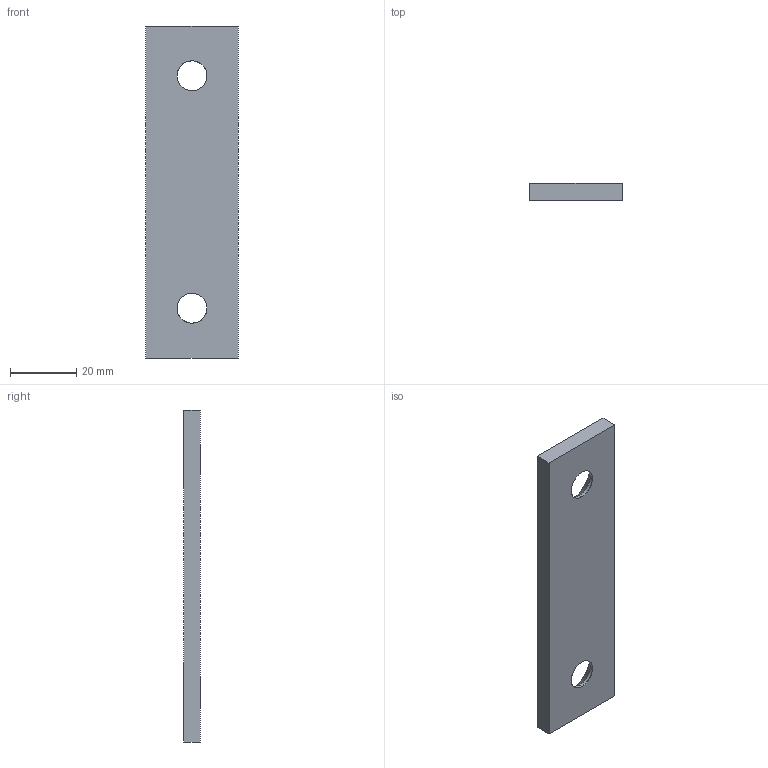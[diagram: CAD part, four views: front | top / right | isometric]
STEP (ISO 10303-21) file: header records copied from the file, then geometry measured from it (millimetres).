
FILE_DESCRIPTION(('CATIA V5 STEP Exchange'),'2;1');
FILE_NAME('C:\Users\Utente\Desktop\3D files A605\A605-028-100.stp','2020-04-13T15:45:16+00:00',('none'),('none'),'CATIA Version 5 Release 20 GA (IN-10)','CATIA V5 STEP AP203','none');
FILE_SCHEMA(('CONFIG_CONTROL_DESIGN'));
Length unit declared in the file: millimetre
Products named in the file (1): Noname
Bounding box: 28 x 5 x 100 mm (x, y, z)
Surface area: 6817.4 mm2 (no closed solid volume)
Topology: 0 solids, 10 shells, 14 faces, 56 edges, 48 vertices
Faces by surface type: extrusion 6, cylinder 4, revolution 4
Entity records: 726 total; most frequent: CARTESIAN_POINT 233, DIRECTION 66, ORIENTED_EDGE 64, EDGE_CURVE 56, VERTEX_POINT 48, VECTOR 38, LINE 32, AXIS2_PLACEMENT_3D 21
